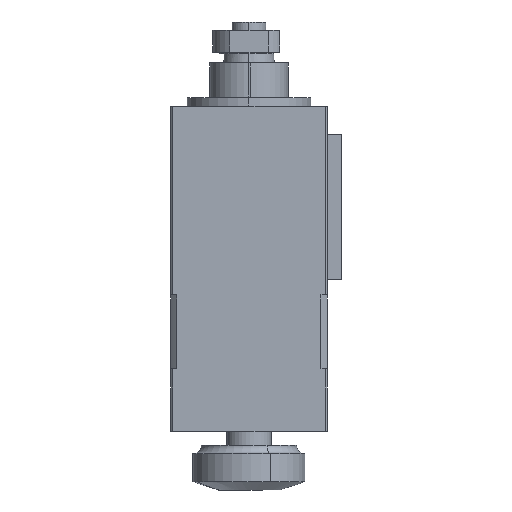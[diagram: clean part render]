
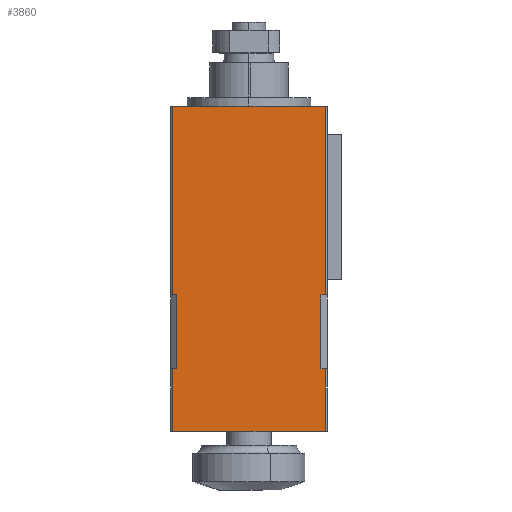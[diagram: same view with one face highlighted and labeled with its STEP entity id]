
A CAD part, left-side view. The second image highlights one B-rep face of the part: STEP entity #3860.
In plain terms, the highlighted planar face has unit normal (-1, 0, 0).
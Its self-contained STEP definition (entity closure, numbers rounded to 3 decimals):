
#71 = VERTEX_POINT ( 'NONE', #4473 ) ;
#104 = ORIENTED_EDGE ( 'NONE', *, *, #3548, .F. ) ;
#131 = VECTOR ( 'NONE', #1771, 1000. ) ;
#236 = DIRECTION ( 'NONE',  ( 0., 0., -1. ) ) ;
#282 = EDGE_CURVE ( 'NONE', #2176, #2240, #5111, .T. ) ;
#285 = CARTESIAN_POINT ( 'NONE',  ( -14., -13.574, 5. ) ) ;
#329 = VERTEX_POINT ( 'NONE', #3088 ) ;
#353 = VERTEX_POINT ( 'NONE', #1296 ) ;
#392 = VECTOR ( 'NONE', #236, 1000. ) ;
#467 = VERTEX_POINT ( 'NONE', #285 ) ;
#490 = DIRECTION ( 'NONE',  ( 0., 0., 1. ) ) ;
#556 = EDGE_CURVE ( 'NONE', #2176, #2386, #5115, .T. ) ;
#581 = CARTESIAN_POINT ( 'NONE',  ( -14., 13.574, -41.9 ) ) ;
#592 = ORIENTED_EDGE ( 'NONE', *, *, #2599, .F. ) ;
#629 = VERTEX_POINT ( 'NONE', #1252 ) ;
#652 = EDGE_CURVE ( 'NONE', #353, #71, #2633, .T. ) ;
#681 = DIRECTION ( 'NONE',  ( 0., 1., 0. ) ) ;
#686 = CARTESIAN_POINT ( 'NONE',  ( -14., 13.574, -28.7 ) ) ;
#928 = PLANE ( 'NONE',  #3473 ) ;
#935 = CARTESIAN_POINT ( 'NONE',  ( -14., 13.574, -28.7 ) ) ;
#1015 = EDGE_LOOP ( 'NONE', ( #3605, #1780, #4028, #592, #4874, #1407, #3507, #4189, #3033, #104, #2908, #4579 ) ) ;
#1048 = CARTESIAN_POINT ( 'NONE',  ( -14., 13.574, 0. ) ) ;
#1090 = DIRECTION ( 'NONE',  ( 0., -1., 0. ) ) ;
#1209 = EDGE_CURVE ( 'NONE', #2019, #4879, #2317, .T. ) ;
#1252 = CARTESIAN_POINT ( 'NONE',  ( -14., 12.845, -41.9 ) ) ;
#1257 = VECTOR ( 'NONE', #490, 1000. ) ;
#1296 = CARTESIAN_POINT ( 'NONE',  ( -14., 13.574, 5. ) ) ;
#1327 = LINE ( 'NONE', #686, #2229 ) ;
#1407 = ORIENTED_EDGE ( 'NONE', *, *, #3273, .T. ) ;
#1511 = CARTESIAN_POINT ( 'NONE',  ( -14., -13.574, -28.7 ) ) ;
#1520 = DIRECTION ( 'NONE',  ( 0., 0., -1. ) ) ;
#1540 = VERTEX_POINT ( 'NONE', #1710 ) ;
#1581 = VECTOR ( 'NONE', #1999, 1000. ) ;
#1710 = CARTESIAN_POINT ( 'NONE',  ( -14., 13.574, -53. ) ) ;
#1740 = DIRECTION ( 'NONE',  ( 0., 0., 1. ) ) ;
#1771 = DIRECTION ( 'NONE',  ( 0., 0., -1. ) ) ;
#1780 = ORIENTED_EDGE ( 'NONE', *, *, #1209, .T. ) ;
#1834 = VECTOR ( 'NONE', #1520, 1000. ) ;
#1938 = VECTOR ( 'NONE', #3890, 1000. ) ;
#1999 = DIRECTION ( 'NONE',  ( 0., -1., 0. ) ) ;
#2019 = VERTEX_POINT ( 'NONE', #2451 ) ;
#2037 = EDGE_CURVE ( 'NONE', #329, #629, #3872, .T. ) ;
#2075 = CARTESIAN_POINT ( 'NONE',  ( -14., -13.574, 0. ) ) ;
#2103 = DIRECTION ( 'NONE',  ( 0., 1., 0. ) ) ;
#2160 = EDGE_CURVE ( 'NONE', #4879, #467, #4415, .T. ) ;
#2174 = VECTOR ( 'NONE', #2103, 1000. ) ;
#2176 = VERTEX_POINT ( 'NONE', #4078 ) ;
#2205 = EDGE_CURVE ( 'NONE', #629, #3915, #3223, .T. ) ;
#2213 = LINE ( 'NONE', #4537, #131 ) ;
#2229 = VECTOR ( 'NONE', #1090, 1000. ) ;
#2240 = VERTEX_POINT ( 'NONE', #3055 ) ;
#2317 = LINE ( 'NONE', #935, #4323 ) ;
#2386 = VERTEX_POINT ( 'NONE', #4646 ) ;
#2451 = CARTESIAN_POINT ( 'NONE',  ( -14., -12.845, -28.7 ) ) ;
#2495 = LINE ( 'NONE', #4375, #1581 ) ;
#2546 = DIRECTION ( 'NONE',  ( 0., 0., -1. ) ) ;
#2599 = EDGE_CURVE ( 'NONE', #353, #467, #2495, .T. ) ;
#2632 = CARTESIAN_POINT ( 'NONE',  ( -14., 13.574, -53. ) ) ;
#2633 = LINE ( 'NONE', #1048, #392 ) ;
#2716 = VECTOR ( 'NONE', #681, 1000. ) ;
#2785 = VECTOR ( 'NONE', #3237, 1000. ) ;
#2848 = LINE ( 'NONE', #2632, #2716 ) ;
#2891 = CARTESIAN_POINT ( 'NONE',  ( -14., -14., 0. ) ) ;
#2908 = ORIENTED_EDGE ( 'NONE', *, *, #282, .F. ) ;
#3033 = ORIENTED_EDGE ( 'NONE', *, *, #3927, .T. ) ;
#3055 = CARTESIAN_POINT ( 'NONE',  ( -14., -13.574, -53. ) ) ;
#3065 = CARTESIAN_POINT ( 'NONE',  ( -14., 13.574, -41.9 ) ) ;
#3088 = CARTESIAN_POINT ( 'NONE',  ( -14., 12.845, -28.7 ) ) ;
#3223 = LINE ( 'NONE', #4885, #2174 ) ;
#3237 = DIRECTION ( 'NONE',  ( 0., 0., -1. ) ) ;
#3273 = EDGE_CURVE ( 'NONE', #71, #329, #1327, .T. ) ;
#3449 = CARTESIAN_POINT ( 'NONE',  ( -14., -13.574, -41.9 ) ) ;
#3462 = FACE_OUTER_BOUND ( 'NONE', #1015, .T. ) ;
#3473 = AXIS2_PLACEMENT_3D ( 'NONE', #2891, #4110, #1740 ) ;
#3507 = ORIENTED_EDGE ( 'NONE', *, *, #2037, .T. ) ;
#3514 = VECTOR ( 'NONE', #2546, 1000. ) ;
#3548 = EDGE_CURVE ( 'NONE', #2240, #1540, #2848, .T. ) ;
#3605 = ORIENTED_EDGE ( 'NONE', *, *, #4530, .F. ) ;
#3860 = ADVANCED_FACE ( 'NONE', ( #3462 ), #928, .T. ) ;
#3872 = LINE ( 'NONE', #4865, #2785 ) ;
#3890 = DIRECTION ( 'NONE',  ( 0., 1., 0. ) ) ;
#3915 = VERTEX_POINT ( 'NONE', #581 ) ;
#3927 = EDGE_CURVE ( 'NONE', #3915, #1540, #4598, .T. ) ;
#4028 = ORIENTED_EDGE ( 'NONE', *, *, #2160, .T. ) ;
#4078 = CARTESIAN_POINT ( 'NONE',  ( -14., -13.574, -41.9 ) ) ;
#4097 = DIRECTION ( 'NONE',  ( 0., -1., 0. ) ) ;
#4110 = DIRECTION ( 'NONE',  ( -1., 0., 0. ) ) ;
#4142 = CARTESIAN_POINT ( 'NONE',  ( -14., 13.574, -41.9 ) ) ;
#4189 = ORIENTED_EDGE ( 'NONE', *, *, #2205, .T. ) ;
#4323 = VECTOR ( 'NONE', #4097, 1000. ) ;
#4375 = CARTESIAN_POINT ( 'NONE',  ( -14., -14., 5. ) ) ;
#4415 = LINE ( 'NONE', #2075, #1257 ) ;
#4473 = CARTESIAN_POINT ( 'NONE',  ( -14., 13.574, -28.7 ) ) ;
#4530 = EDGE_CURVE ( 'NONE', #2019, #2386, #2213, .T. ) ;
#4537 = CARTESIAN_POINT ( 'NONE',  ( -14., -12.845, -43.65 ) ) ;
#4579 = ORIENTED_EDGE ( 'NONE', *, *, #556, .T. ) ;
#4598 = LINE ( 'NONE', #4142, #3514 ) ;
#4646 = CARTESIAN_POINT ( 'NONE',  ( -14., -12.845, -41.9 ) ) ;
#4865 = CARTESIAN_POINT ( 'NONE',  ( -14., 12.845, -43.65 ) ) ;
#4874 = ORIENTED_EDGE ( 'NONE', *, *, #652, .T. ) ;
#4879 = VERTEX_POINT ( 'NONE', #1511 ) ;
#4885 = CARTESIAN_POINT ( 'NONE',  ( -14., 13.574, -41.9 ) ) ;
#5111 = LINE ( 'NONE', #3449, #1834 ) ;
#5115 = LINE ( 'NONE', #3065, #1938 ) ;
